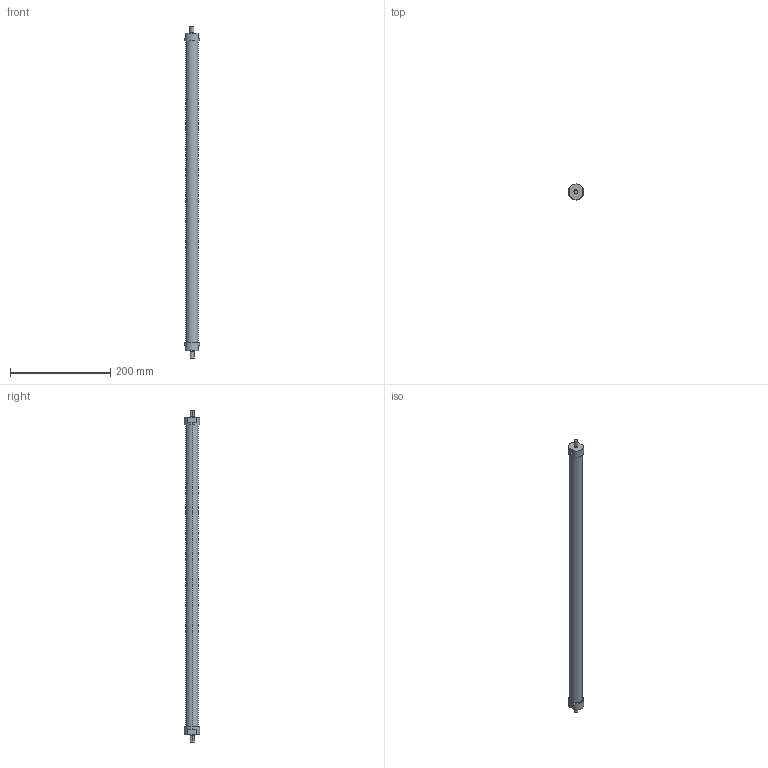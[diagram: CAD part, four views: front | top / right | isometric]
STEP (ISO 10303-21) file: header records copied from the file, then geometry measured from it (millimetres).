
FILE_DESCRIPTION(('STEP AP214'),'1');
FILE_NAME('ETT-R050N644.stp','2015-02-02T15:43:15',(' '),(' '),'Spatial InterOp 3D',' ',' ');
FILE_SCHEMA(('automotive_design'));
Length unit declared in the file: metre
Products named in the file (3): 1; 2; 3
Bounding box: 31 x 31 x 664 mm (x, y, z)
Volume: 319493.8 mm3; surface area: 53665.4 mm2
Topology: 1 solids, 7 shells, 30 faces, 81 edges, 63 vertices
Faces by surface type: plane 16, cylinder 14
Entity records: 1295 total; most frequent: DIRECTION 194, CARTESIAN_POINT 177, ORIENTED_EDGE 138, EDGE_CURVE 81, AXIS2_PLACEMENT_3D 80, VERTEX_POINT 63, CIRCLE 47, EDGE_LOOP 36
